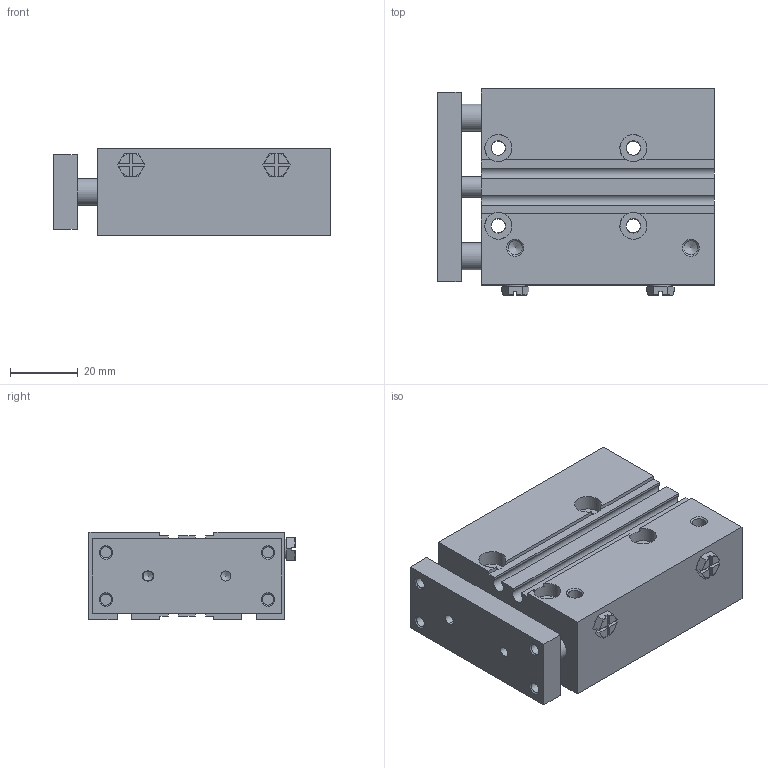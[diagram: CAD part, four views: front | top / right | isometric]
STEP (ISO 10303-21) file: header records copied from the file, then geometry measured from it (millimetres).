
FILE_DESCRIPTION(/* description */ ('STEP AP214'),/* implementation_level */ '2;1');
FILE_NAME(/* name */ 'MGPM12-40Z(0_0)',/* time_stamp */ '2025-08-25T09:13:17+02:00',/* author */ ('License CC BY-ND 4.0'),/* organization */ ('CADENAS'),/* preprocessor_version */ 'ST-DEVELOPER v19.3',/* originating_system */ 'PARTsolutions',/* authorisation */ ' ');
FILE_SCHEMA (('AUTOMOTIVE_DESIGN {1 0 10303 214 3 1 1}'));
Length unit declared in the file: millimetre
Products named in the file (4): MGPM12-40Z(0_0); MGPM12-40Z(0)_BODY; MGPM12-40Z(0)_ROD; M-5P_MGP
Assembly tree (4 placements, depth 2):
  MGPM12-40Z(0_0)
    MGPM12-40Z(0)_BODY
    MGPM12-40Z(0)_ROD
    M-5P_MGP  x2
Bounding box: 82 x 61 x 26 mm (x, y, z)
Volume: 95467.5 mm3; surface area: 36102.9 mm2
Topology: 4 solids, 4 shells, 244 faces, 598 edges, 378 vertices
Faces by surface type: plane 124, cone 66, cylinder 54
Full cylindrical faces by diameter (mm): 3 x6, 3.242 x8, 4.134 x8, 4.3 x4, 4.4 x2, 5 x2, 6 x4, 8 x8, 12 x2
Entity records: 5575 total; most frequent: CARTESIAN_POINT 1009, DIRECTION 926, ORIENTED_EDGE 798, EDGE_CURVE 399, AXIS2_PLACEMENT_3D 352, FACE_BOUND 326, EDGE_LOOP 312, VERTEX_POINT 307
